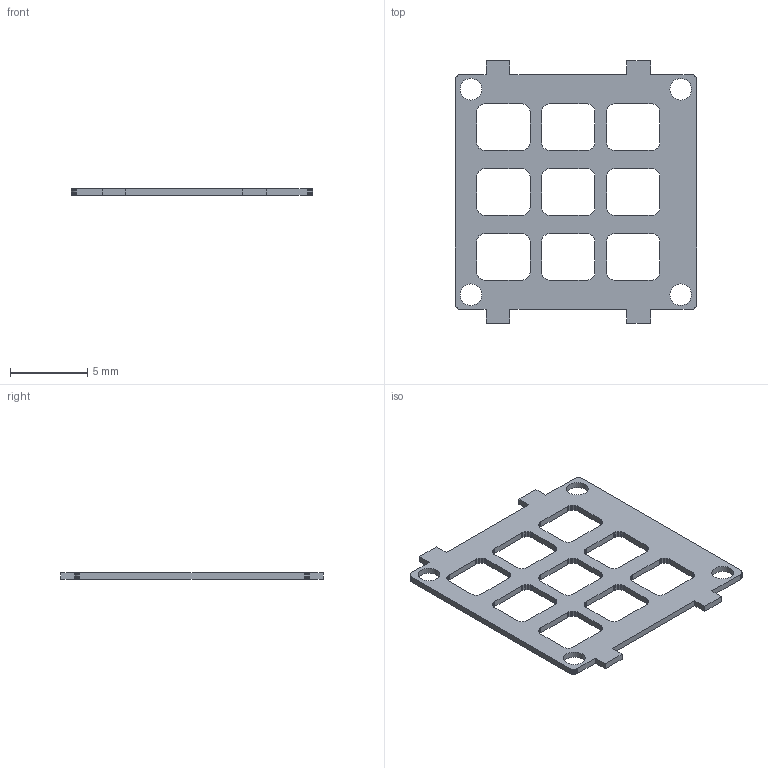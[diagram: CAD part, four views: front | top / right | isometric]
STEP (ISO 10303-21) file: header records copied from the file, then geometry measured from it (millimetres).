
FILE_DESCRIPTION(('Open CASCADE Model'),'2;1');
FILE_NAME('Open CASCADE Shape Model','2026-11-23T03:42:15',('Author'),( 'Open CASCADE'),'Open CASCADE STEP processor 7.9','Open CASCADE 7.9' ,'Unknown');
FILE_SCHEMA(('AUTOMOTIVE_DESIGN { 1 0 10303 214 1 1 1 1 }'));
Length unit declared in the file: millimetre
Products named in the file (1): Open CASCADE STEP translator 7.9 5
Bounding box: 15.6 x 17 x 0.4 mm (x, y, z)
Volume: 58.1 mm3; surface area: 368.2 mm2
Topology: 1 solids, 1 shells, 382 faces, 1140 edges, 760 vertices
Faces by surface type: plane 378, cylinder 4
Full cylindrical faces by diameter (mm): 1.4 x4
Entity records: 27478 total; most frequent: CARTESIAN_POINT 4611, DIRECTION 4186, LINE 3404, VECTOR 3404, ORIENTED_EDGE 2280, PCURVE 2280, DEFINITIONAL_REPRESENTATION 2280, EDGE_CURVE 1140
